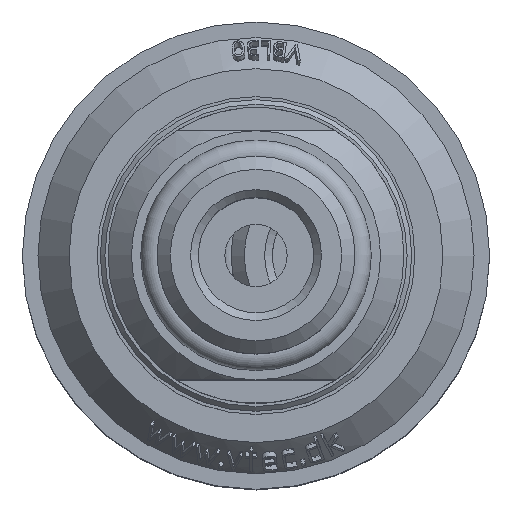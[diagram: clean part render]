
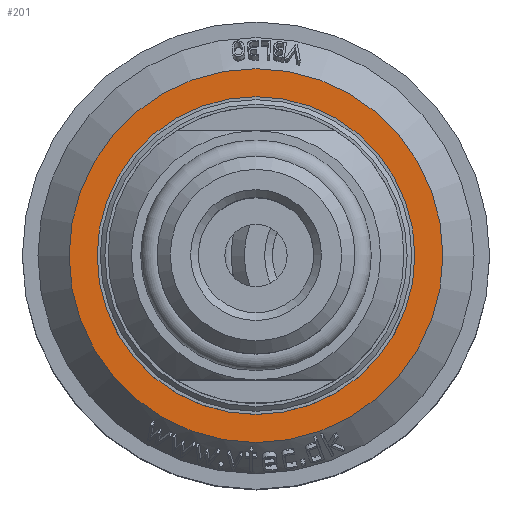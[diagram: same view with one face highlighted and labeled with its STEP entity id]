
A CAD part, top view. The second image highlights one B-rep face of the part: STEP entity #201.
In plain terms, the highlighted planar face has unit normal (0, 0, 1).
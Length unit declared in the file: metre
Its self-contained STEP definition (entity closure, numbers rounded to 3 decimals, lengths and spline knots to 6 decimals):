
#201 = ADVANCED_FACE( '', ( #488, #489 ), #490, .F. );
#488 = FACE_OUTER_BOUND( '', #1806, .T. );
#489 = FACE_BOUND( '', #1807, .T. );
#490 = PLANE( '', #1808 );
#1806 = EDGE_LOOP( '', ( #4857 ) );
#1807 = EDGE_LOOP( '', ( #4858 ) );
#1808 = AXIS2_PLACEMENT_3D( '', #4859, #4860, #4861 );
#4857 = ORIENTED_EDGE( '', *, *, #5936, .F. );
#4858 = ORIENTED_EDGE( '', *, *, #6067, .F. );
#4859 = CARTESIAN_POINT( '', ( -0.0055, 0., 0.01125 ) );
#4860 = DIRECTION( '', ( 0., 0., -1. ) );
#4861 = DIRECTION( '', ( -1., 0., 0. ) );
#5936 = EDGE_CURVE( '', #6480, #6480, #6481, .T. );
#6067 = EDGE_CURVE( '', #6722, #6722, #6723, .F. );
#6480 = VERTEX_POINT( '', #7644 );
#6481 = CIRCLE( '', #7645, 0.012 );
#6722 = VERTEX_POINT( '', #8720 );
#6723 = CIRCLE( '', #8721, 0.0102 );
#7644 = CARTESIAN_POINT( '', ( -0.012, 0., 0.01125 ) );
#7645 = AXIS2_PLACEMENT_3D( '', #9992, #9993, #9994 );
#8720 = CARTESIAN_POINT( '', ( -0.0102, 0., 0.01125 ) );
#8721 = AXIS2_PLACEMENT_3D( '', #10023, #10024, #10025 );
#9992 = CARTESIAN_POINT( '', ( 0., 0., 0.01125 ) );
#9993 = DIRECTION( '', ( 0., 0., -1. ) );
#9994 = DIRECTION( '', ( -1., 0., 0. ) );
#10023 = CARTESIAN_POINT( '', ( 0., 0., 0.01125 ) );
#10024 = DIRECTION( '', ( 0., 0., -1. ) );
#10025 = DIRECTION( '', ( -1., 0., 0. ) );
